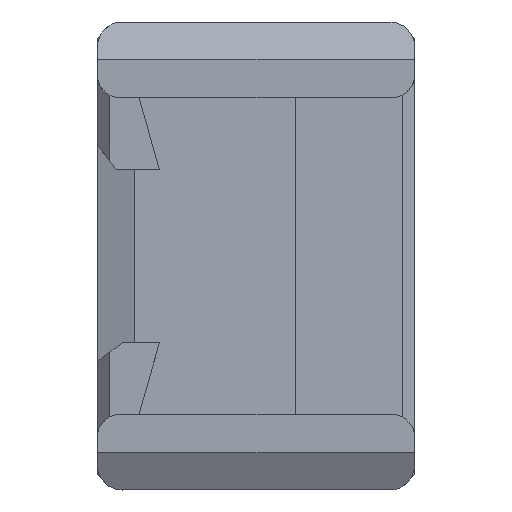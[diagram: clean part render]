
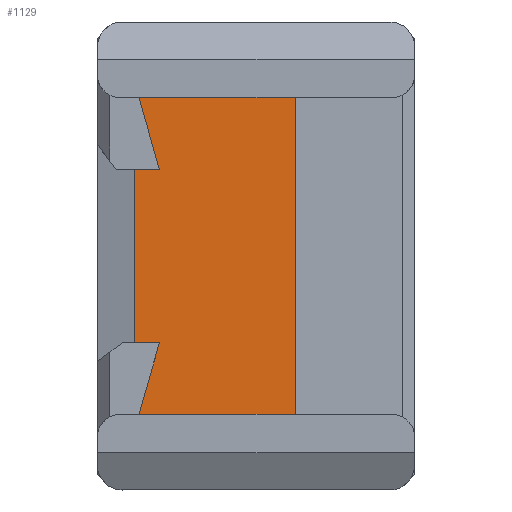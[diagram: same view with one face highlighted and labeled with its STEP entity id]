
A CAD part, top view. The second image highlights one B-rep face of the part: STEP entity #1129.
In plain terms, the highlighted planar face has unit normal (0, 0, 1).
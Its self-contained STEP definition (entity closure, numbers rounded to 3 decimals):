
#117=FACE_OUTER_BOUND('',#175,.T.);
#175=EDGE_LOOP('',(#1017,#1018,#1019,#1020,#1021,#1022,#1023,#1024));
#178=LINE('',#1541,#308);
#280=LINE('',#1797,#410);
#297=LINE('',#1850,#427);
#299=LINE('',#1854,#429);
#301=LINE('',#1857,#431);
#302=LINE('',#1860,#432);
#305=LINE('',#1865,#435);
#306=LINE('',#1867,#436);
#308=VECTOR('',#1236,10.);
#410=VECTOR('',#1448,10.);
#427=VECTOR('',#1511,10.);
#429=VECTOR('',#1515,10.);
#431=VECTOR('',#1519,10.);
#432=VECTOR('',#1522,10.);
#435=VECTOR('',#1527,10.);
#436=VECTOR('',#1530,10.);
#438=VERTEX_POINT('',#1538);
#439=VERTEX_POINT('',#1540);
#526=VERTEX_POINT('',#1796);
#538=VERTEX_POINT('',#1847);
#539=VERTEX_POINT('',#1849);
#540=VERTEX_POINT('',#1853);
#541=VERTEX_POINT('',#1859);
#542=VERTEX_POINT('',#1863);
#544=EDGE_CURVE('',#438,#439,#178,.T.);
#669=EDGE_CURVE('',#526,#439,#280,.T.);
#695=EDGE_CURVE('',#539,#538,#297,.T.);
#697=EDGE_CURVE('',#540,#539,#299,.T.);
#699=EDGE_CURVE('',#438,#540,#301,.T.);
#700=EDGE_CURVE('',#538,#541,#302,.T.);
#703=EDGE_CURVE('',#541,#542,#305,.T.);
#704=EDGE_CURVE('',#542,#526,#306,.T.);
#1017=ORIENTED_EDGE('',*,*,#544,.F.);
#1018=ORIENTED_EDGE('',*,*,#699,.T.);
#1019=ORIENTED_EDGE('',*,*,#697,.T.);
#1020=ORIENTED_EDGE('',*,*,#695,.T.);
#1021=ORIENTED_EDGE('',*,*,#700,.T.);
#1022=ORIENTED_EDGE('',*,*,#703,.T.);
#1023=ORIENTED_EDGE('',*,*,#704,.T.);
#1024=ORIENTED_EDGE('',*,*,#669,.T.);
#1072=PLANE('',#1229);
#1129=ADVANCED_FACE('',(#117),#1072,.T.);
#1229=AXIS2_PLACEMENT_3D('',#1868,#1531,#1532);
#1236=DIRECTION('',(0.,1.,0.));
#1448=DIRECTION('',(-1.,0.,0.));
#1511=DIRECTION('',(1.,0.,0.));
#1515=DIRECTION('',(-0.275,-0.962,0.));
#1519=DIRECTION('',(1.,0.,0.));
#1522=DIRECTION('',(0.,1.,0.));
#1527=DIRECTION('',(-1.,0.,0.));
#1530=DIRECTION('',(0.275,-0.962,0.));
#1531=DIRECTION('center_axis',(0.,0.,1.));
#1532=DIRECTION('ref_axis',(1.,0.,0.));
#1538=CARTESIAN_POINT('',(6.5,-3.5,1.85));
#1540=CARTESIAN_POINT('',(6.5,3.5,1.85));
#1541=CARTESIAN_POINT('',(6.5,4.225,1.85));
#1796=CARTESIAN_POINT('',(7.5,3.5,1.85));
#1797=CARTESIAN_POINT('',(8.2,3.5,1.85));
#1847=CARTESIAN_POINT('',(13.,-6.4,1.85));
#1849=CARTESIAN_POINT('',(6.671,-6.4,1.85));
#1850=CARTESIAN_POINT('',(12.2,-6.4,1.85));
#1853=CARTESIAN_POINT('',(7.5,-3.5,1.85));
#1854=CARTESIAN_POINT('',(7.695,-2.817,1.85));
#1857=CARTESIAN_POINT('',(9.45,-3.5,1.85));
#1859=CARTESIAN_POINT('',(13.,6.4,1.85));
#1860=CARTESIAN_POINT('',(13.,3.2,1.85));
#1863=CARTESIAN_POINT('',(6.671,6.4,1.85));
#1865=CARTESIAN_POINT('',(9.036,6.4,1.85));
#1867=CARTESIAN_POINT('',(8.109,1.367,1.85));
#1868=CARTESIAN_POINT('Origin',(11.4,0.,1.85));
